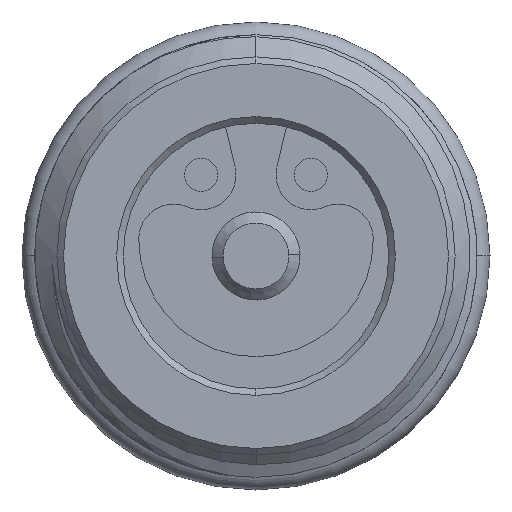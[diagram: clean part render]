
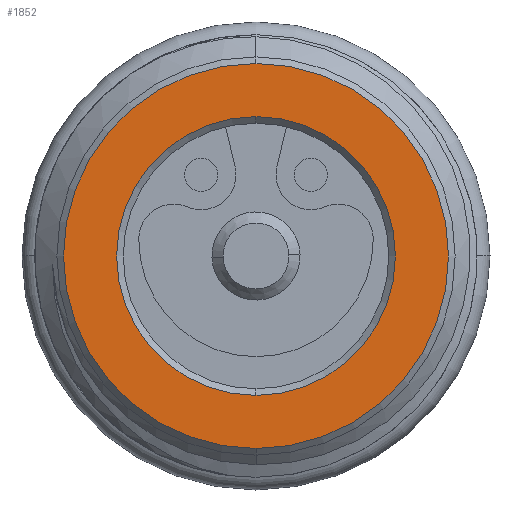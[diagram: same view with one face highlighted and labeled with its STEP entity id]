
A CAD part, front view. The second image highlights one B-rep face of the part: STEP entity #1852.
In plain terms, the highlighted planar face has unit normal (0, -1, 0).
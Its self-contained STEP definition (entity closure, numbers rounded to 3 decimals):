
#59 = CIRCLE ( 'NONE', #2777, 6.3 ) ;
#77 = VERTEX_POINT ( 'NONE', #705 ) ;
#123 = CARTESIAN_POINT ( 'NONE',  ( -8.525, -5.009, 24.5 ) ) ;
#151 = CARTESIAN_POINT ( 'NONE',  ( -8.525, -5.009, 15.8 ) ) ;
#196 = FACE_BOUND ( 'NONE', #3487, .T. ) ;
#256 = PLANE ( 'NONE',  #437 ) ;
#258 = ORIENTED_EDGE ( 'NONE', *, *, #3511, .F. ) ;
#437 = AXIS2_PLACEMENT_3D ( 'NONE', #3991, #3069, #2742 ) ;
#439 = ORIENTED_EDGE ( 'NONE', *, *, #1107, .T. ) ;
#452 = DIRECTION ( 'NONE',  ( 0., 0., 1. ) ) ;
#513 = CARTESIAN_POINT ( 'NONE',  ( -8.525, -5.009, 24.5 ) ) ;
#597 = VERTEX_POINT ( 'NONE', #151 ) ;
#655 = CIRCLE ( 'NONE', #1523, 6.3 ) ;
#705 = CARTESIAN_POINT ( 'NONE',  ( -8.525, -5.009, 18.2 ) ) ;
#780 = ORIENTED_EDGE ( 'NONE', *, *, #2660, .F. ) ;
#1024 = EDGE_LOOP ( 'NONE', ( #780, #258 ) ) ;
#1107 = EDGE_CURVE ( 'NONE', #1811, #77, #59, .T. ) ;
#1343 = DIRECTION ( 'NONE',  ( 0., 1., 0. ) ) ;
#1430 = DIRECTION ( 'NONE',  ( 0., 1., 0. ) ) ;
#1523 = AXIS2_PLACEMENT_3D ( 'NONE', #3858, #2311, #452 ) ;
#1639 = VERTEX_POINT ( 'NONE', #3777 ) ;
#1811 = VERTEX_POINT ( 'NONE', #3905 ) ;
#1852 = ADVANCED_FACE ( 'NONE', ( #196, #2161 ), #256, .F. ) ;
#2161 = FACE_OUTER_BOUND ( 'NONE', #1024, .T. ) ;
#2204 = ORIENTED_EDGE ( 'NONE', *, *, #2687, .T. ) ;
#2311 = DIRECTION ( 'NONE',  ( 0., 1., 0. ) ) ;
#2454 = AXIS2_PLACEMENT_3D ( 'NONE', #2694, #1430, #3660 ) ;
#2660 = EDGE_CURVE ( 'NONE', #1639, #597, #3438, .T. ) ;
#2687 = EDGE_CURVE ( 'NONE', #77, #1811, #655, .T. ) ;
#2694 = CARTESIAN_POINT ( 'NONE',  ( -8.525, -5.009, 24.5 ) ) ;
#2742 = DIRECTION ( 'NONE',  ( 0., 0., 1. ) ) ;
#2777 = AXIS2_PLACEMENT_3D ( 'NONE', #513, #3965, #3618 ) ;
#3069 = DIRECTION ( 'NONE',  ( 0., 1., 0. ) ) ;
#3082 = CIRCLE ( 'NONE', #2454, 8.7 ) ;
#3244 = DIRECTION ( 'NONE',  ( 0., 0., 1. ) ) ;
#3392 = AXIS2_PLACEMENT_3D ( 'NONE', #123, #1343, #3244 ) ;
#3438 = CIRCLE ( 'NONE', #3392, 8.7 ) ;
#3487 = EDGE_LOOP ( 'NONE', ( #2204, #439 ) ) ;
#3511 = EDGE_CURVE ( 'NONE', #597, #1639, #3082, .T. ) ;
#3618 = DIRECTION ( 'NONE',  ( 0., 0., 1. ) ) ;
#3660 = DIRECTION ( 'NONE',  ( 0., 0., 1. ) ) ;
#3777 = CARTESIAN_POINT ( 'NONE',  ( -8.525, -5.009, 33.2 ) ) ;
#3858 = CARTESIAN_POINT ( 'NONE',  ( -8.525, -5.009, 24.5 ) ) ;
#3905 = CARTESIAN_POINT ( 'NONE',  ( -8.525, -5.009, 30.8 ) ) ;
#3965 = DIRECTION ( 'NONE',  ( 0., 1., 0. ) ) ;
#3991 = CARTESIAN_POINT ( 'NONE',  ( 0.175, -5.009, 24.5 ) ) ;
